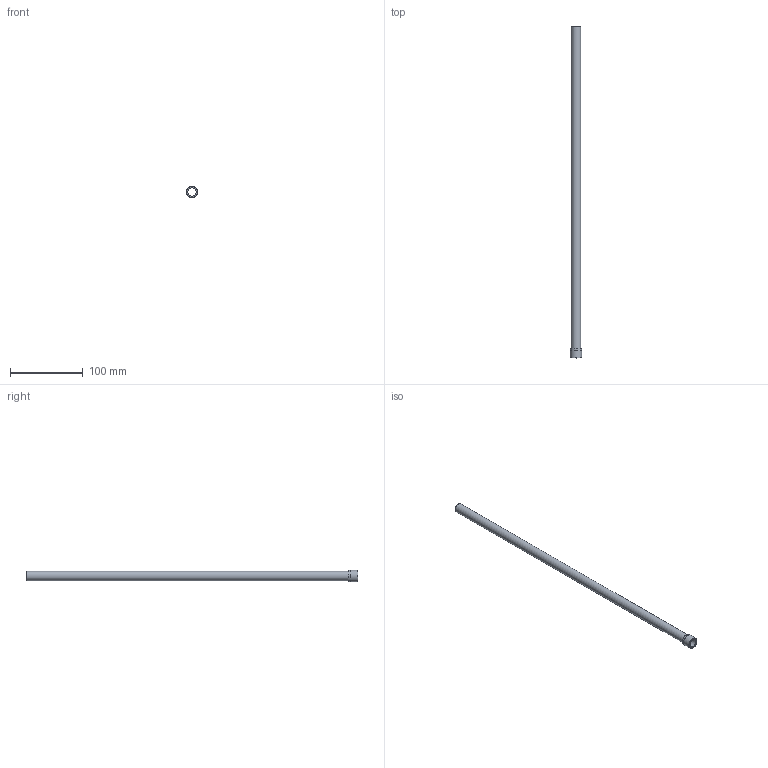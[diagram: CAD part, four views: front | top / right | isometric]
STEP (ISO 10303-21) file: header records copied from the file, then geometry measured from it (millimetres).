
FILE_DESCRIPTION(/* description */ (''),/* implementation_level */ '2;1');
FILE_NAME(/* name */ 'C:/Users/drich/Desktop/JHF500T-18 v1.step',/* time_stamp */ '2020-01-02T20:02:09-06:00',/* author */ (''),/* organization */ (''),/* preprocessor_version */ 'ST-DEVELOPER v18',/* originating_system */ 'Autodesk Translation Framework v8.12.0.6',/* authorisation */ '');
FILE_SCHEMA (('AUTOMOTIVE_DESIGN { 1 0 10303 214 3 1 1 }'));
Length unit declared in the file: inch
Products named in the file (1): JHF500T-18
Bounding box: 15.93 x 457.2 x 15.93 mm (x, y, z)
Volume: 13176.1 mm3; surface area: 34750.9 mm2
Topology: 1 solids, 1 shells, 10 faces, 24 edges, 18 vertices
Faces by surface type: cylinder 4, plane 4, cone 1, torus 1
Full cylindrical faces by diameter (mm): 11.278 x1, 12.7 x1, 15.763 x1, 15.926 x1
Entity records: 354 total; most frequent: DIRECTION 65, CARTESIAN_POINT 53, ORIENTED_EDGE 48, AXIS2_PLACEMENT_3D 30, EDGE_CURVE 24, CIRCLE 19, VERTEX_POINT 18, EDGE_LOOP 14
